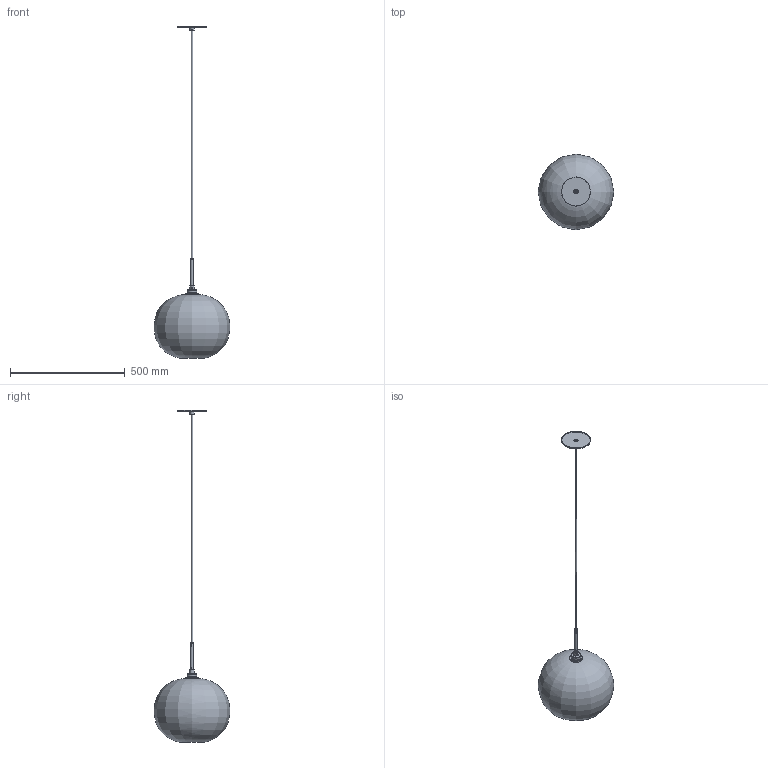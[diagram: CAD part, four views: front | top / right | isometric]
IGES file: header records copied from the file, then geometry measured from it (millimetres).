
Global section: file name: Niche - Terra Pendant; native system: unknown; preprocessor: unknown; author: unknown; organization: unknown; date: 20220927.114811; units: inch
Bounding box: 330.06 x 330.07 x 1448.84 mm (x, y, z)
Volume: 1717537.3 mm3; surface area: 747991.4 mm2
Topology: 12 solids, 12 shells, 165 faces, 409 edges, 273 vertices
Faces by surface type: bspline 165
